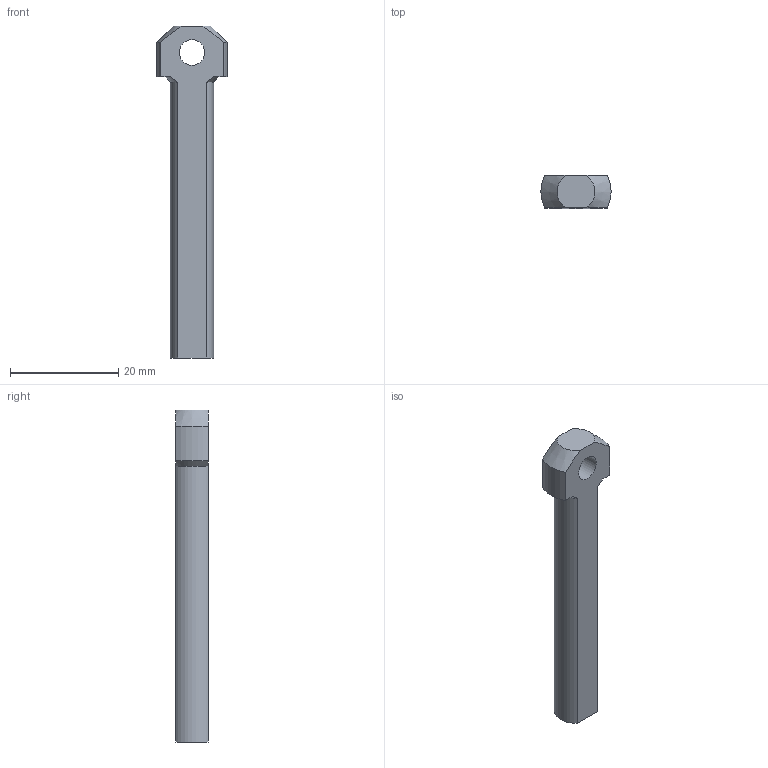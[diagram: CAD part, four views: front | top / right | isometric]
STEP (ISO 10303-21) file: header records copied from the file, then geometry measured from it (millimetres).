
FILE_DESCRIPTION(/* description */ (''),/* implementation_level */ '2;1');
FILE_NAME(/* name */ '3-28-4 Shock plunger.step',/* time_stamp */ '2025-05-10T22:05:46+02:00',/* author */ (''),/* organization */ (''),/* preprocessor_version */ 'ST-DEVELOPER v20.1',/* originating_system */ 'Autodesk Translation Framework v14.4.0.0',/* authorisation */ '');
FILE_SCHEMA (('AUTOMOTIVE_DESIGN { 1 0 10303 214 3 1 1 }'));
Length unit declared in the file: millimetre
Products named in the file (1): 09-30-08 Shock bottom ring
Bounding box: 13 x 6 x 61.39 mm (x, y, z)
Volume: 2655.5 mm3; surface area: 1874.1 mm2
Topology: 1 solids, 1 shells, 17 faces, 42 edges, 28 vertices
Faces by surface type: plane 7, cylinder 6, cone 4
Full cylindrical faces by diameter (mm): 4.1 x1, 4.7 x1
Entity records: 548 total; most frequent: CARTESIAN_POINT 104, DIRECTION 86, ORIENTED_EDGE 84, EDGE_CURVE 42, AXIS2_PLACEMENT_3D 34, VERTEX_POINT 28, EDGE_LOOP 20, LINE 18
